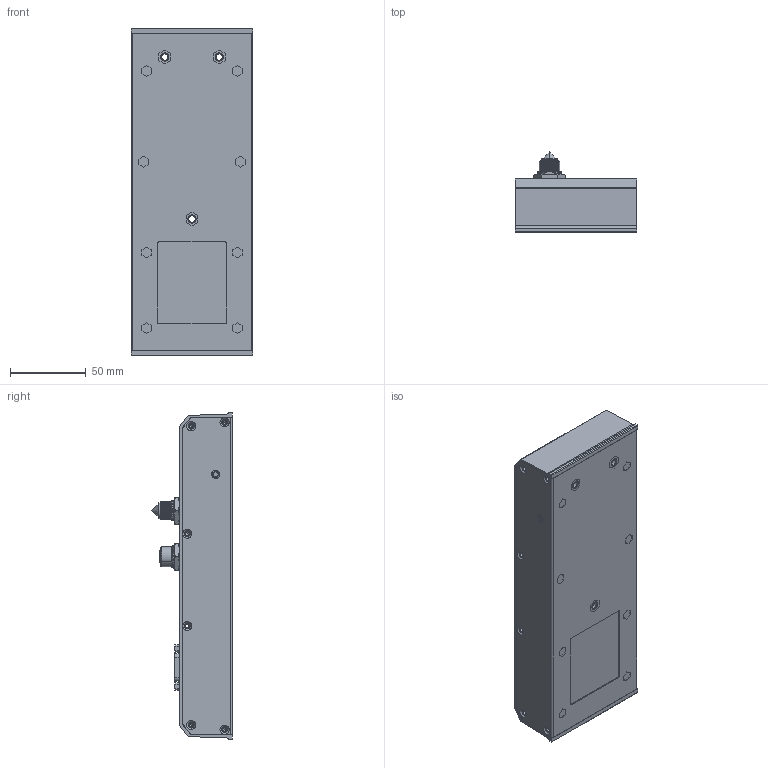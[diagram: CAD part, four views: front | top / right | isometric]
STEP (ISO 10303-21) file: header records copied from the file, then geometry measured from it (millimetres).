
FILE_DESCRIPTION((''),'2;1');
FILE_NAME('NPORT-5150AI-M12','2012-09-17T',('Chialu_Chang'),(''),'PRO/ENGINEER BY PARAMETRIC TECHNOLOGY CORPORATION, 2004320','PRO/ENGINEER BY PARAMETRIC TECHNOLOGY CORPORATION, 2004320','');
FILE_SCHEMA(('CONFIG_CONTROL_DESIGN'));
Length unit declared in the file: millimetre
Products named in the file (1): NPORT-5150AI-M12
Bounding box: 80 x 53.2 x 216.6 mm (x, y, z)
Volume: 150658.5 mm3; surface area: 147979.7 mm2
Topology: 31 solids, 57 shells, 1612 faces, 4374 edges, 2879 vertices
Faces by surface type: plane 781, cylinder 497, cone 210, bspline 76, sphere 33, torus 15
Entity records: 59709 total; most frequent: CARTESIAN_POINT 18815, ORIENTED_EDGE 8510, DIRECTION 8244, EDGE_CURVE 4304, AXIS2_PLACEMENT_3D 2920, VERTEX_POINT 2879, VECTOR 2404, LINE 2404
